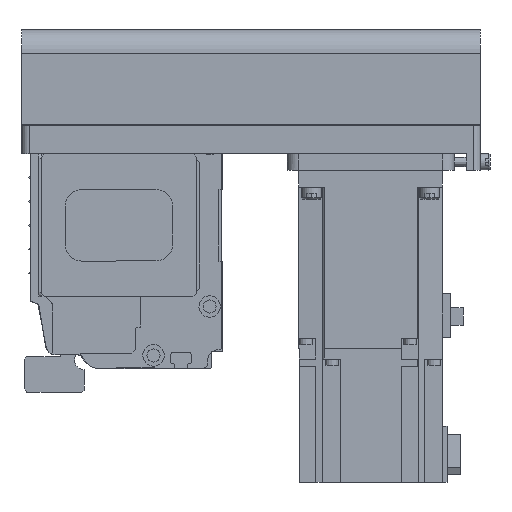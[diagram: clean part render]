
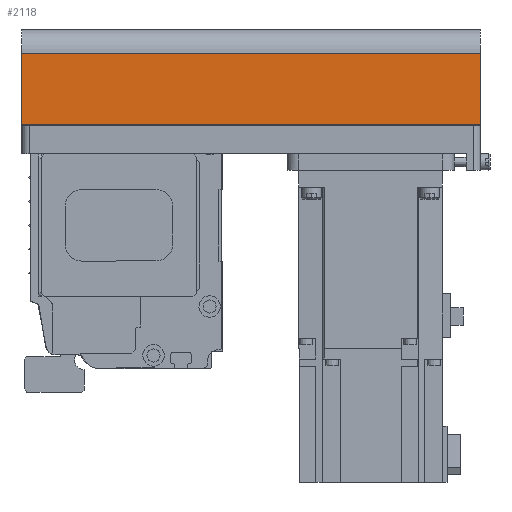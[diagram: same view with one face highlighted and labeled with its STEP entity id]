
A CAD part, left-side view. The second image highlights one B-rep face of the part: STEP entity #2118.
In plain terms, the highlighted planar face has unit normal (-1, 0, 0) as drawn and (0, -1, 0) by its records, which use the part's own axes.
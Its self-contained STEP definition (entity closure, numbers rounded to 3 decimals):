
#2118 = ADVANCED_FACE( '', ( #4493 ), #4494, .T. );
#4493 = FACE_OUTER_BOUND( '', #7029, .T. );
#4494 = PLANE( '', #7030 );
#7029 = EDGE_LOOP( '', ( #12793, #12794, #12795, #12796 ) );
#7030 = AXIS2_PLACEMENT_3D( '', #12797, #12798, #12799 );
#12793 = ORIENTED_EDGE( '', *, *, #16489, .F. );
#12794 = ORIENTED_EDGE( '', *, *, #15399, .F. );
#12795 = ORIENTED_EDGE( '', *, *, #15751, .T. );
#12796 = ORIENTED_EDGE( '', *, *, #14763, .T. );
#12797 = CARTESIAN_POINT( '', ( -192., -40., -12.1 ) );
#12798 = DIRECTION( '', ( 0., -1., 0. ) );
#12799 = DIRECTION( '', ( 0., 0., -1. ) );
#14763 = EDGE_CURVE( '', #17750, #17747, #17751, .T. );
#15399 = EDGE_CURVE( '', #18776, #18778, #18779, .T. );
#15751 = EDGE_CURVE( '', #18776, #17750, #19312, .T. );
#16489 = EDGE_CURVE( '', #18778, #17747, #20252, .T. );
#17747 = VERTEX_POINT( '', #21850 );
#17750 = VERTEX_POINT( '', #21853 );
#17751 = LINE( '', #21854, #21855 );
#18776 = VERTEX_POINT( '', #23202 );
#18778 = VERTEX_POINT( '', #23205 );
#18779 = LINE( '', #23206, #23207 );
#19312 = LINE( '', #23939, #23940 );
#20252 = LINE( '', #25211, #25212 );
#21850 = CARTESIAN_POINT( '', ( 0., -40., -42. ) );
#21853 = CARTESIAN_POINT( '', ( -192., -40., -42. ) );
#21854 = CARTESIAN_POINT( '', ( -192., -40., -42. ) );
#21855 = VECTOR( '', #26235, 1000. );
#23202 = CARTESIAN_POINT( '', ( -192., -40., -12.1 ) );
#23205 = CARTESIAN_POINT( '', ( 0., -40., -12.1 ) );
#23206 = CARTESIAN_POINT( '', ( -192., -40., -12.1 ) );
#23207 = VECTOR( '', #27093, 1000. );
#23939 = CARTESIAN_POINT( '', ( -192., -40., -12.1 ) );
#23940 = VECTOR( '', #27506, 1000. );
#25211 = CARTESIAN_POINT( '', ( 0., -40., -12.1 ) );
#25212 = VECTOR( '', #28276, 1000. );
#26235 = DIRECTION( '', ( 1., 0., 0. ) );
#27093 = DIRECTION( '', ( 1., 0., 0. ) );
#27506 = DIRECTION( '', ( 0., 0., -1. ) );
#28276 = DIRECTION( '', ( 0., 0., -1. ) );
